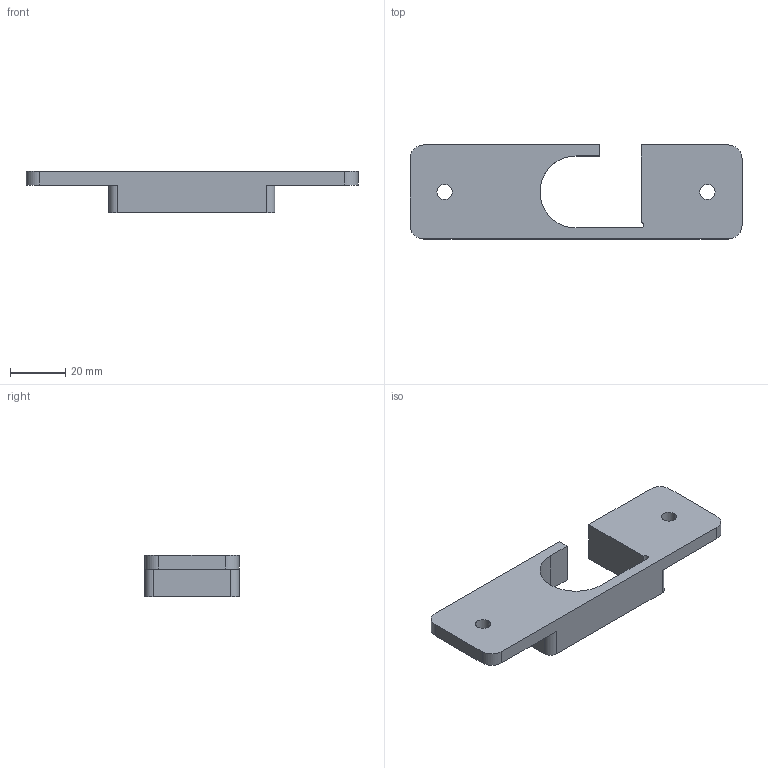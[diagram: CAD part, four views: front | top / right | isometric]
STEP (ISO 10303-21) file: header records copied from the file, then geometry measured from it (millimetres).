
FILE_DESCRIPTION(('CATIA V5 STEP Exchange'),'2;1');
FILE_NAME('D:\姚明阳\AGZ015\AGZ015.06_V1.stp','2022-02-07T06:31:11+00:00',('none'),('none'),'CATIA Version 5 Release 21 GA (IN-10)','CATIA V5 STEP AP214','none');
FILE_SCHEMA(('AUTOMOTIVE_DESIGN { 1 0 10303 214 1 1 1 1 }'));
Length unit declared in the file: millimetre
Products named in the file (1): AGZ015.06_V1
Bounding box: 120 x 34 x 15 mm (x, y, z)
Volume: 26307.3 mm3; surface area: 11039.1 mm2
Topology: 1 solids, 1 shells, 29 faces, 81 edges, 54 vertices
Faces by surface type: plane 15, cylinder 14
Entity records: 925 total; most frequent: ORIENTED_EDGE 162, CARTESIAN_POINT 161, DIRECTION 131, EDGE_CURVE 81, AXIS2_PLACEMENT_3D 54, VERTEX_POINT 54, VECTOR 53, LINE 53
